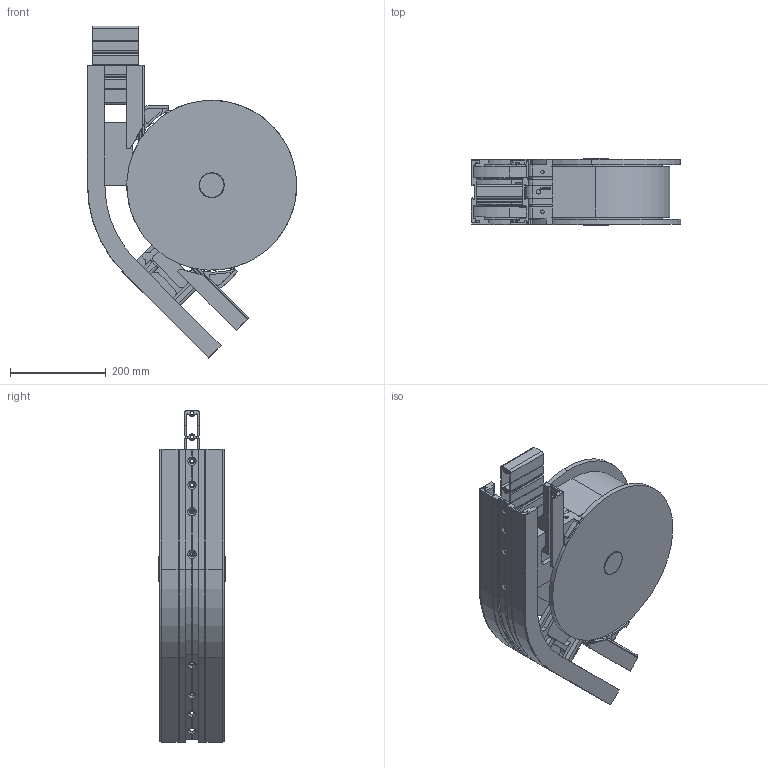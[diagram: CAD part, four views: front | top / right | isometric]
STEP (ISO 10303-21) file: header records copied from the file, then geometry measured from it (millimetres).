
FILE_DESCRIPTION (( 'STEP AP203' ), '1' );
FILE_NAME ('R3C200-45.STEP', '2009-01-13T08:24:40', ( 'faber' ), ( '' ), 'SwSTEP 2.0', 'SolidWorks 2008', '' );
FILE_SCHEMA (( 'CONFIG_CONTROL_DESIGN' ));
Length unit declared in the file: millimetre
Products named in the file (1): R3C200-45
Bounding box: 435.87 x 139 x 691.67 mm (x, y, z)
Surface area: 1249687.3 mm2 (no closed solid volume)
Topology: 0 solids, 173 shells, 947 faces, 3728 edges, 2854 vertices
Faces by surface type: plane 535, cylinder 293, torus 84, cone 30, bspline 5
Entity records: 42985 total; most frequent: CARTESIAN_POINT 13060, DIRECTION 6002, ORIENTED_EDGE 5407, EDGE_CURVE 3728, VERTEX_POINT 2854, VECTOR 2068, LINE 2068, AXIS2_PLACEMENT_3D 1967
